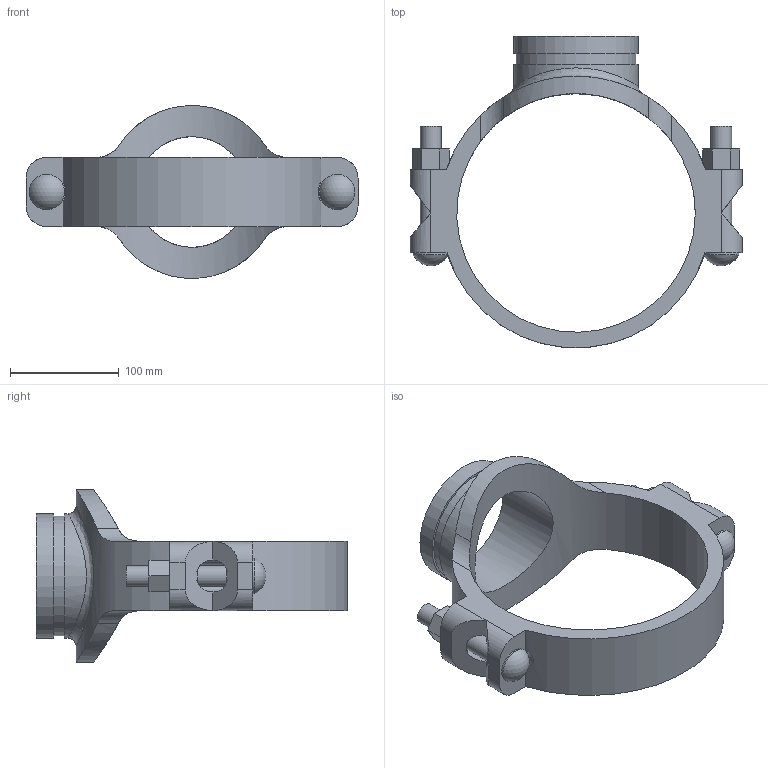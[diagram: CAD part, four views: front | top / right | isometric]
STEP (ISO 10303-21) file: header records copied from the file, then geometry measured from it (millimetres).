
FILE_DESCRIPTION(/* description */ ('VIC SS MECHANICAL T BRANCH OUTLET STYLE 422 (OGS)','CAx-IF Rec.Pracs.---Representation and Presentation of Product Manufacturing Information (PMI)---4.0---2014-10-13'),/* implementation_level */ '2;1');
FILE_NAME(/* name */ 'C:\Files for Export\422\STEP\Victaulic_SS-OGS_Mech-Tee Out_Style 422 (OGS)\Victaulic_SS-OGS_Mech-Tee Out_Style 422 (OGS)_08.0x04.0 (200x100).stp',/* time_stamp */ '2023-03-28T14:00:11+02:00',/* author */ ('jheald'),/* organization */ ('Victaulic'),/* preprocessor_version */ 'ST-DEVELOPER v18.1',/* originating_system */ 'Autodesk Inventor 2020',/* authorisation */ '');
FILE_SCHEMA (('AP242_MANAGED_MODEL_BASED_3D_ENGINEERING_MIM_LF { 1 0 10303 442 1 1 4 }'));
Length unit declared in the file: inch
Products named in the file (1): 422-08.0x04.0
Bounding box: 304.8 x 285.56 x 158.75 mm (x, y, z)
Volume: 1073206.6 mm3; surface area: 198625.7 mm2
Topology: 1 solids, 1 shells, 81 faces, 231 edges, 155 vertices
Faces by surface type: plane 43, cylinder 35, sphere 2, bspline 1
Full cylindrical faces by diameter (mm): 19.05 x4, 32.537 x2, 101.6 x1, 110.084 x1, 114.3 x2, 219.075 x1
Entity records: 3387 total; most frequent: CARTESIAN_POINT 999, DIRECTION 481, ORIENTED_EDGE 462, EDGE_CURVE 231, AXIS2_PLACEMENT_3D 177, VERTEX_POINT 155, LINE 127, VECTOR 127
